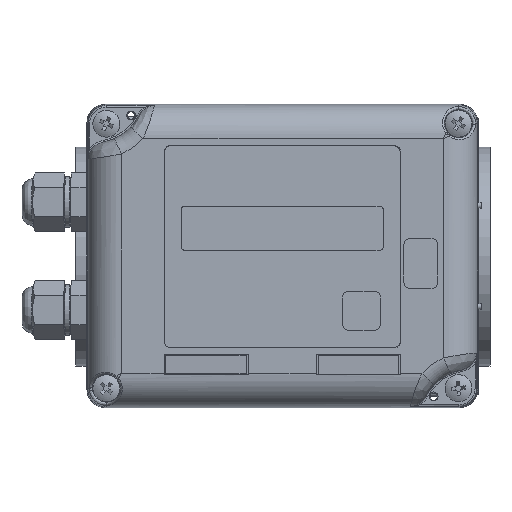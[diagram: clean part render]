
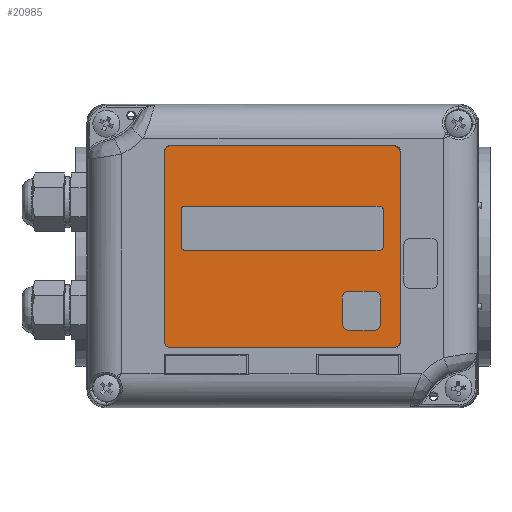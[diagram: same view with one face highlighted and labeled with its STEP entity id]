
A CAD part, top view. The second image highlights one B-rep face of the part: STEP entity #20985.
In plain terms, the highlighted planar face has unit normal (0, 0, 1).
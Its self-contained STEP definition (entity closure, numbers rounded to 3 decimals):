
#20985=ADVANCED_FACE('',(#66781,#66783,#66785),#66787,.T.);
#66781=FACE_BOUND('',#66782,.T.);
#66782=EDGE_LOOP('',(#79557,#79558,#79559,#79560,#79561,#79562,#79563,#79564));
#66783=FACE_BOUND('',#66784,.T.);
#66784=EDGE_LOOP('',(#79565,#79566,#79567,#79568,#79569,#79570,#79571,#79572));
#66785=FACE_BOUND('',#66786,.T.);
#66786=EDGE_LOOP('',(#79573,#79574,#79575,#79576,#79577,#79578,#79579,#79580));
#66787=PLANE('',#66788);
#66788=AXIS2_PLACEMENT_3D('',#66789,#66790,#66791);
#66789=CARTESIAN_POINT('',(-0.141,2.709,123.3));
#66790=DIRECTION('',(0.,0.,1.));
#66791=DIRECTION('',(-1.,0.,0.));
#79557=ORIENTED_EDGE('',*,*,#85994,.F.);
#79558=ORIENTED_EDGE('',*,*,#85995,.T.);
#79559=ORIENTED_EDGE('',*,*,#85996,.F.);
#79560=ORIENTED_EDGE('',*,*,#85997,.T.);
#79561=ORIENTED_EDGE('',*,*,#85998,.F.);
#79562=ORIENTED_EDGE('',*,*,#85999,.T.);
#79563=ORIENTED_EDGE('',*,*,#86000,.F.);
#79564=ORIENTED_EDGE('',*,*,#86001,.T.);
#79565=ORIENTED_EDGE('',*,*,#86002,.F.);
#79566=ORIENTED_EDGE('',*,*,#86003,.T.);
#79567=ORIENTED_EDGE('',*,*,#86004,.F.);
#79568=ORIENTED_EDGE('',*,*,#86005,.T.);
#79569=ORIENTED_EDGE('',*,*,#86006,.F.);
#79570=ORIENTED_EDGE('',*,*,#86007,.T.);
#79571=ORIENTED_EDGE('',*,*,#86008,.F.);
#79572=ORIENTED_EDGE('',*,*,#86009,.T.);
#79573=ORIENTED_EDGE('',*,*,#86010,.F.);
#79574=ORIENTED_EDGE('',*,*,#86011,.T.);
#79575=ORIENTED_EDGE('',*,*,#86012,.F.);
#79576=ORIENTED_EDGE('',*,*,#86013,.T.);
#79577=ORIENTED_EDGE('',*,*,#86014,.F.);
#79578=ORIENTED_EDGE('',*,*,#86015,.T.);
#79579=ORIENTED_EDGE('',*,*,#86016,.F.);
#79580=ORIENTED_EDGE('',*,*,#86017,.T.);
#85994=EDGE_CURVE('',#95018,#95019,#95020,.F.);
#85995=EDGE_CURVE('',#95018,#95021,#95022,.T.);
#85996=EDGE_CURVE('',#95023,#95021,#95024,.F.);
#85997=EDGE_CURVE('',#95023,#95025,#95026,.T.);
#85998=EDGE_CURVE('',#95027,#95025,#95028,.F.);
#85999=EDGE_CURVE('',#95027,#95029,#95030,.T.);
#86000=EDGE_CURVE('',#95031,#95029,#95032,.F.);
#86001=EDGE_CURVE('',#95031,#95019,#95033,.T.);
#86002=EDGE_CURVE('',#95034,#95035,#95036,.F.);
#86003=EDGE_CURVE('',#95034,#95037,#95038,.F.);
#86004=EDGE_CURVE('',#95039,#95037,#95040,.F.);
#86005=EDGE_CURVE('',#95039,#95041,#95042,.F.);
#86006=EDGE_CURVE('',#95043,#95041,#95044,.F.);
#86007=EDGE_CURVE('',#95043,#95045,#95046,.F.);
#86008=EDGE_CURVE('',#95047,#95045,#95048,.F.);
#86009=EDGE_CURVE('',#95047,#95035,#95049,.F.);
#86010=EDGE_CURVE('',#95050,#95051,#95052,.F.);
#86011=EDGE_CURVE('',#95050,#95053,#95054,.F.);
#86012=EDGE_CURVE('',#95055,#95053,#95056,.F.);
#86013=EDGE_CURVE('',#95055,#95057,#95058,.F.);
#86014=EDGE_CURVE('',#95059,#95057,#95060,.F.);
#86015=EDGE_CURVE('',#95059,#95061,#95062,.F.);
#86016=EDGE_CURVE('',#95063,#95061,#95064,.F.);
#86017=EDGE_CURVE('',#95063,#95051,#95065,.F.);
#95018=VERTEX_POINT('',#175277);
#95019=VERTEX_POINT('',#175278);
#95020=CIRCLE('',#175279,2.);
#95021=VERTEX_POINT('',#175283);
#95022=LINE('',#175284,#175285);
#95023=VERTEX_POINT('',#175287);
#95024=CIRCLE('',#175288,2.);
#95025=VERTEX_POINT('',#175292);
#95026=LINE('',#175293,#175294);
#95027=VERTEX_POINT('',#175296);
#95028=CIRCLE('',#175297,2.);
#95029=VERTEX_POINT('',#175301);
#95030=LINE('',#175302,#175303);
#95031=VERTEX_POINT('',#175305);
#95032=CIRCLE('',#175306,2.);
#95033=LINE('',#175310,#175311);
#95034=VERTEX_POINT('',#175313);
#95035=VERTEX_POINT('',#175314);
#95036=CIRCLE('',#175315,2.);
#95037=VERTEX_POINT('',#175319);
#95038=LINE('',#175320,#175321);
#95039=VERTEX_POINT('',#175323);
#95040=CIRCLE('',#175324,2.);
#95041=VERTEX_POINT('',#175328);
#95042=LINE('',#175329,#175330);
#95043=VERTEX_POINT('',#175332);
#95044=CIRCLE('',#175333,2.);
#95045=VERTEX_POINT('',#175337);
#95046=LINE('',#175338,#175339);
#95047=VERTEX_POINT('',#175341);
#95048=CIRCLE('',#175342,2.);
#95049=LINE('',#175346,#175347);
#95050=VERTEX_POINT('',#175349);
#95051=VERTEX_POINT('',#175350);
#95052=CIRCLE('',#175351,1.);
#95053=VERTEX_POINT('',#175355);
#95054=LINE('',#175356,#175357);
#95055=VERTEX_POINT('',#175359);
#95056=CIRCLE('',#175360,1.);
#95057=VERTEX_POINT('',#175364);
#95058=LINE('',#175365,#175366);
#95059=VERTEX_POINT('',#175368);
#95060=CIRCLE('',#175369,1.);
#95061=VERTEX_POINT('',#175373);
#95062=LINE('',#175374,#175375);
#95063=VERTEX_POINT('',#175377);
#95064=CIRCLE('',#175378,1.);
#95065=LINE('',#175382,#175383);
#175277=CARTESIAN_POINT('',(-33.141,-27.291,123.3));
#175278=CARTESIAN_POINT('',(-35.141,-25.291,123.3));
#175279=AXIS2_PLACEMENT_3D('',#175280,#175281,#175282);
#175280=CARTESIAN_POINT('',(-33.141,-25.291,123.3));
#175281=DIRECTION('',(0.,0.,1.));
#175282=DIRECTION('',(-1.,0.,0.));
#175283=CARTESIAN_POINT('',(32.859,-27.291,123.3));
#175284=CARTESIAN_POINT('',(-33.141,-27.291,123.3));
#175285=VECTOR('',#175286,1.);
#175286=DIRECTION('',(1.,0.,0.));
#175287=CARTESIAN_POINT('',(34.859,-25.291,123.3));
#175288=AXIS2_PLACEMENT_3D('',#175289,#175290,#175291);
#175289=CARTESIAN_POINT('',(32.859,-25.291,123.3));
#175290=DIRECTION('',(0.,0.,1.));
#175291=DIRECTION('',(0.,-1.,0.));
#175292=CARTESIAN_POINT('',(34.859,30.709,123.3));
#175293=CARTESIAN_POINT('',(34.859,-25.291,123.3));
#175294=VECTOR('',#175295,1.);
#175295=DIRECTION('',(0.,1.,0.));
#175296=CARTESIAN_POINT('',(32.859,32.709,123.3));
#175297=AXIS2_PLACEMENT_3D('',#175298,#175299,#175300);
#175298=CARTESIAN_POINT('',(32.859,30.709,123.3));
#175299=DIRECTION('',(0.,0.,1.));
#175300=DIRECTION('',(1.,0.,0.));
#175301=CARTESIAN_POINT('',(-33.141,32.709,123.3));
#175302=CARTESIAN_POINT('',(32.859,32.709,123.3));
#175303=VECTOR('',#175304,1.);
#175304=DIRECTION('',(-1.,0.,0.));
#175305=CARTESIAN_POINT('',(-35.141,30.709,123.3));
#175306=AXIS2_PLACEMENT_3D('',#175307,#175308,#175309);
#175307=CARTESIAN_POINT('',(-33.141,30.709,123.3));
#175308=DIRECTION('',(0.,0.,1.));
#175309=DIRECTION('',(0.,1.,0.));
#175310=CARTESIAN_POINT('',(-35.141,30.709,123.3));
#175311=VECTOR('',#175312,1.);
#175312=DIRECTION('',(0.,-1.,0.));
#175313=CARTESIAN_POINT('',(19.609,-10.541,123.3));
#175314=CARTESIAN_POINT('',(17.609,-12.541,123.3));
#175315=AXIS2_PLACEMENT_3D('',#175316,#175317,#175318);
#175316=CARTESIAN_POINT('',(19.609,-12.541,123.3));
#175317=DIRECTION('',(-0.,0.,-1.));
#175318=DIRECTION('',(-1.,0.,0.));
#175319=CARTESIAN_POINT('',(27.109,-10.541,123.3));
#175320=CARTESIAN_POINT('',(27.109,-10.541,123.3));
#175321=VECTOR('',#175322,1.);
#175322=DIRECTION('',(-1.,0.,0.));
#175323=CARTESIAN_POINT('',(29.109,-12.541,123.3));
#175324=AXIS2_PLACEMENT_3D('',#175325,#175326,#175327);
#175325=CARTESIAN_POINT('',(27.109,-12.541,123.3));
#175326=DIRECTION('',(0.,-0.,-1.));
#175327=DIRECTION('',(0.,1.,0.));
#175328=CARTESIAN_POINT('',(29.109,-20.041,123.3));
#175329=CARTESIAN_POINT('',(29.109,-20.041,123.3));
#175330=VECTOR('',#175331,1.);
#175331=DIRECTION('',(0.,1.,0.));
#175332=CARTESIAN_POINT('',(27.109,-22.041,123.3));
#175333=AXIS2_PLACEMENT_3D('',#175334,#175335,#175336);
#175334=CARTESIAN_POINT('',(27.109,-20.041,123.3));
#175335=DIRECTION('',(0.,-0.,-1.));
#175336=DIRECTION('',(1.,0.,0.));
#175337=CARTESIAN_POINT('',(19.609,-22.041,123.3));
#175338=CARTESIAN_POINT('',(19.609,-22.041,123.3));
#175339=VECTOR('',#175340,1.);
#175340=DIRECTION('',(1.,0.,0.));
#175341=CARTESIAN_POINT('',(17.609,-20.041,123.3));
#175342=AXIS2_PLACEMENT_3D('',#175343,#175344,#175345);
#175343=CARTESIAN_POINT('',(19.609,-20.041,123.3));
#175344=DIRECTION('',(-0.,0.,-1.));
#175345=DIRECTION('',(0.,-1.,0.));
#175346=CARTESIAN_POINT('',(17.609,-12.541,123.3));
#175347=VECTOR('',#175348,1.);
#175348=DIRECTION('',(0.,-1.,0.));
#175349=CARTESIAN_POINT('',(-29.141,14.709,123.3));
#175350=CARTESIAN_POINT('',(-30.141,13.709,123.3));
#175351=AXIS2_PLACEMENT_3D('',#175352,#175353,#175354);
#175352=CARTESIAN_POINT('',(-29.141,13.709,123.3));
#175353=DIRECTION('',(0.,-0.,-1.));
#175354=DIRECTION('',(-1.,0.,0.));
#175355=CARTESIAN_POINT('',(28.859,14.709,123.3));
#175356=CARTESIAN_POINT('',(28.859,14.709,123.3));
#175357=VECTOR('',#175358,1.);
#175358=DIRECTION('',(-1.,0.,0.));
#175359=CARTESIAN_POINT('',(29.859,13.709,123.3));
#175360=AXIS2_PLACEMENT_3D('',#175361,#175362,#175363);
#175361=CARTESIAN_POINT('',(28.859,13.709,123.3));
#175362=DIRECTION('',(0.,-0.,-1.));
#175363=DIRECTION('',(0.,1.,0.));
#175364=CARTESIAN_POINT('',(29.859,2.709,123.3));
#175365=CARTESIAN_POINT('',(29.859,2.709,123.3));
#175366=VECTOR('',#175367,1.);
#175367=DIRECTION('',(0.,1.,0.));
#175368=CARTESIAN_POINT('',(28.859,1.709,123.3));
#175369=AXIS2_PLACEMENT_3D('',#175370,#175371,#175372);
#175370=CARTESIAN_POINT('',(28.859,2.709,123.3));
#175371=DIRECTION('',(0.,-0.,-1.));
#175372=DIRECTION('',(1.,0.,0.));
#175373=CARTESIAN_POINT('',(-29.141,1.709,123.3));
#175374=CARTESIAN_POINT('',(-29.141,1.709,123.3));
#175375=VECTOR('',#175376,1.);
#175376=DIRECTION('',(1.,0.,0.));
#175377=CARTESIAN_POINT('',(-30.141,2.709,123.3));
#175378=AXIS2_PLACEMENT_3D('',#175379,#175380,#175381);
#175379=CARTESIAN_POINT('',(-29.141,2.709,123.3));
#175380=DIRECTION('',(-0.,0.,-1.));
#175381=DIRECTION('',(0.,-1.,0.));
#175382=CARTESIAN_POINT('',(-30.141,13.709,123.3));
#175383=VECTOR('',#175384,1.);
#175384=DIRECTION('',(0.,-1.,0.));
